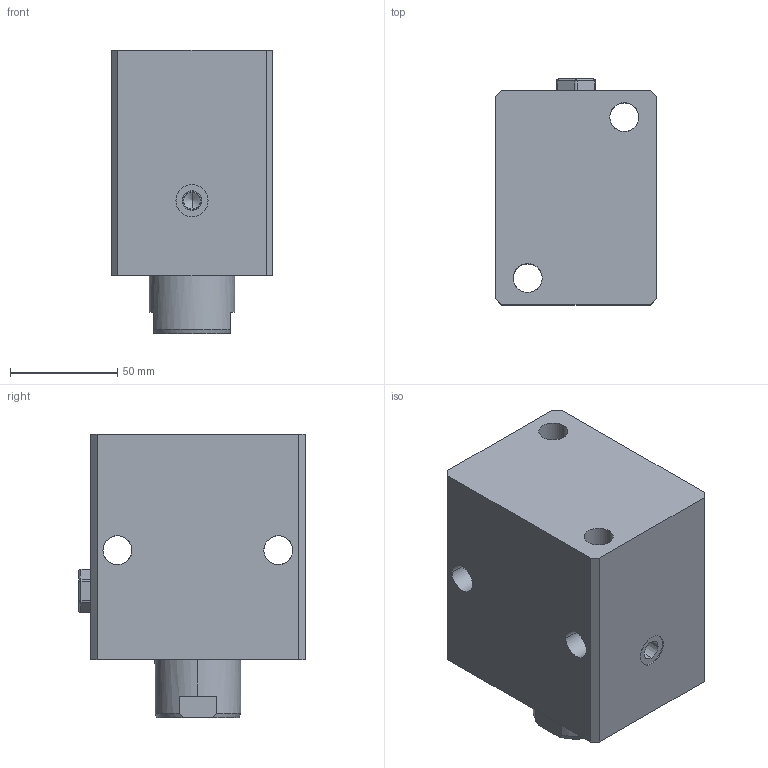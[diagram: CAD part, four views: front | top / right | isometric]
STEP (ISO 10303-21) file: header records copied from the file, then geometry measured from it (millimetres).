
FILE_DESCRIPTION (( 'STEP AP203' ), '1' );
FILE_NAME ('4510 421.STEP', '2016-01-29T10:10:52', ( '' ), ( '' ), 'SwSTEP 2.0', 'SolidWorks 2015', '' );
FILE_SCHEMA (( 'CONFIG_CONTROL_DESIGN' ));
Length unit declared in the file: millimetre
Products named in the file (1): 4510 421
Bounding box: 75 x 105.5 x 132 mm (x, y, z)
Volume: 751583.2 mm3; surface area: 72375.4 mm2
Topology: 1 solids, 2 shells, 103 faces, 247 edges, 145 vertices
Faces by surface type: cylinder 49, plane 31, cone 16, sphere 7
Entity records: 2994 total; most frequent: CARTESIAN_POINT 544, DIRECTION 525, ORIENTED_EDGE 470, EDGE_CURVE 235, AXIS2_PLACEMENT_3D 206, VERTEX_POINT 145, EDGE_LOOP 124, VECTOR 113
